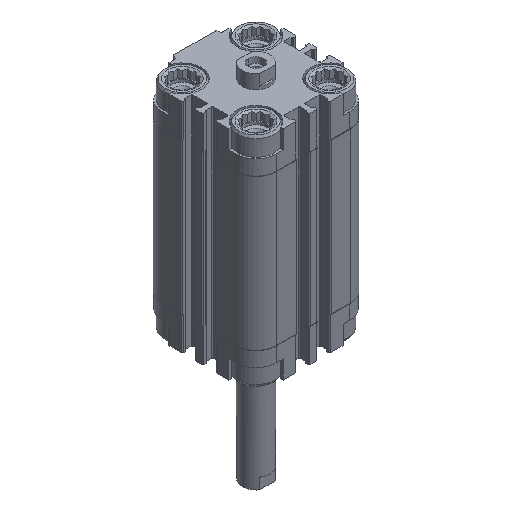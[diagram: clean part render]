
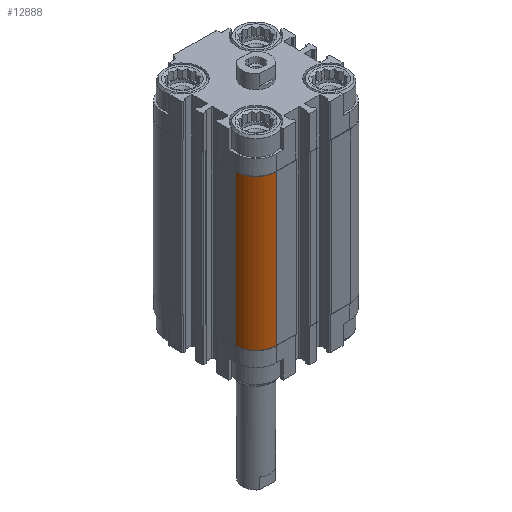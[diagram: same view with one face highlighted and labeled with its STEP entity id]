
A CAD part, isometric view. The second image highlights one B-rep face of the part: STEP entity #12888.
In plain terms, the highlighted cylindrical face has radius 9 mm (diameter 18 mm), a partial arc.
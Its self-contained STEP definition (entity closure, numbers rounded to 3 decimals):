
#543 = AXIS2_PLACEMENT_3D ( 'NONE', #21401, #12723, #19683 ) ;
#1375 = VECTOR ( 'NONE', #14816, 1000. ) ;
#3142 = AXIS2_PLACEMENT_3D ( 'NONE', #7630, #19962, #11619 ) ;
#3497 = DIRECTION ( 'NONE',  ( 0., 0., 1. ) ) ;
#3930 = EDGE_CURVE ( 'NONE', #13533, #17873, #18047, .T. ) ;
#4879 = AXIS2_PLACEMENT_3D ( 'NONE', #18441, #20260, #11137 ) ;
#4999 = VECTOR ( 'NONE', #3497, 1000. ) ;
#5252 = VERTEX_POINT ( 'NONE', #16840 ) ;
#6319 = FACE_OUTER_BOUND ( 'NONE', #21429, .T. ) ;
#7630 = CARTESIAN_POINT ( 'NONE',  ( -16., -16., -80. ) ) ;
#7959 = LINE ( 'NONE', #11278, #1375 ) ;
#8700 = EDGE_CURVE ( 'NONE', #19854, #5252, #14844, .T. ) ;
#9427 = ORIENTED_EDGE ( 'NONE', *, *, #8700, .T. ) ;
#10126 = EDGE_CURVE ( 'NONE', #19854, #13533, #20512, .T. ) ;
#11137 = DIRECTION ( 'NONE',  ( -1., 0., 0. ) ) ;
#11278 = CARTESIAN_POINT ( 'NONE',  ( -16., -25., -80. ) ) ;
#11619 = DIRECTION ( 'NONE',  ( -1., 0., 0. ) ) ;
#12723 = DIRECTION ( 'NONE',  ( 0., 0., 1. ) ) ;
#12888 = ADVANCED_FACE ( 'NONE', ( #6319 ), #18556, .T. ) ;
#13533 = VERTEX_POINT ( 'NONE', #22062 ) ;
#13971 = ORIENTED_EDGE ( 'NONE', *, *, #3930, .F. ) ;
#14165 = ORIENTED_EDGE ( 'NONE', *, *, #21121, .T. ) ;
#14816 = DIRECTION ( 'NONE',  ( 0., 0., 1. ) ) ;
#14844 = CIRCLE ( 'NONE', #3142, 9. ) ;
#15742 = ORIENTED_EDGE ( 'NONE', *, *, #10126, .F. ) ;
#16840 = CARTESIAN_POINT ( 'NONE',  ( -16., -25., -80. ) ) ;
#17873 = VERTEX_POINT ( 'NONE', #21230 ) ;
#18047 = CIRCLE ( 'NONE', #543, 9. ) ;
#18307 = CARTESIAN_POINT ( 'NONE',  ( -25., -16., -80. ) ) ;
#18441 = CARTESIAN_POINT ( 'NONE',  ( -16., -16., -80. ) ) ;
#18556 = CYLINDRICAL_SURFACE ( 'NONE', #4879, 9. ) ;
#19683 = DIRECTION ( 'NONE',  ( -1., 0., 0. ) ) ;
#19854 = VERTEX_POINT ( 'NONE', #18307 ) ;
#19962 = DIRECTION ( 'NONE',  ( 0., 0., 1. ) ) ;
#20260 = DIRECTION ( 'NONE',  ( 0., 0., -1. ) ) ;
#20512 = LINE ( 'NONE', #20755, #4999 ) ;
#20755 = CARTESIAN_POINT ( 'NONE',  ( -25., -16., -80. ) ) ;
#21121 = EDGE_CURVE ( 'NONE', #5252, #17873, #7959, .T. ) ;
#21230 = CARTESIAN_POINT ( 'NONE',  ( -16., -25., -14.5 ) ) ;
#21401 = CARTESIAN_POINT ( 'NONE',  ( -16., -16., -14.5 ) ) ;
#21429 = EDGE_LOOP ( 'NONE', ( #13971, #15742, #9427, #14165 ) ) ;
#22062 = CARTESIAN_POINT ( 'NONE',  ( -25., -16., -14.5 ) ) ;
